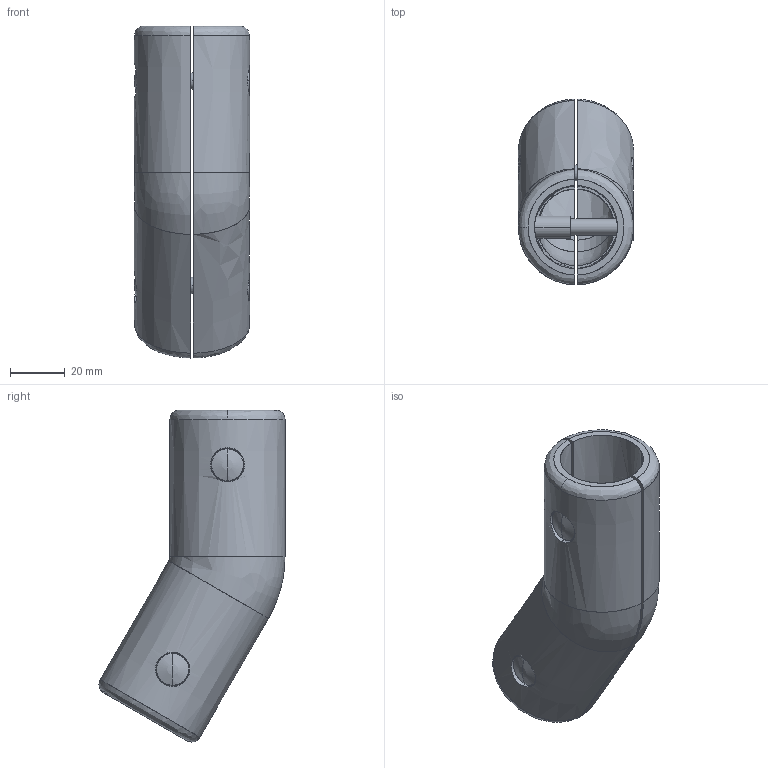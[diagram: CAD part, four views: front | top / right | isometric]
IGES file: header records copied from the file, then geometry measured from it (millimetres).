
Start section: SolidWorks IGES file using analytic representation for surfaces
Global section: file name: C:\Users\Gerard\OneDrive - Tecnodin, S.L\Escritorio\30 mm Verbinder im step. Format\31000410028.IGS; native system: SolidWorks 2016; preprocessor: SolidWorks 2016; author: Gerard; date: 240902.113903; units: millimetre
Bounding box: 42 x 67.89 x 121.18 mm (x, y, z)
Surface area: 34338.1 mm2 (no closed solid volume)
Topology: 0 solids, 0 shells, 129 faces, 2410 edges, 2400 vertices
Faces by surface type: revolution 77, bspline 52
